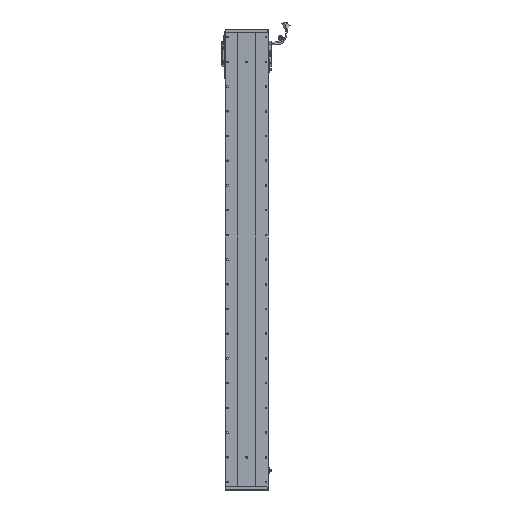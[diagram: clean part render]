
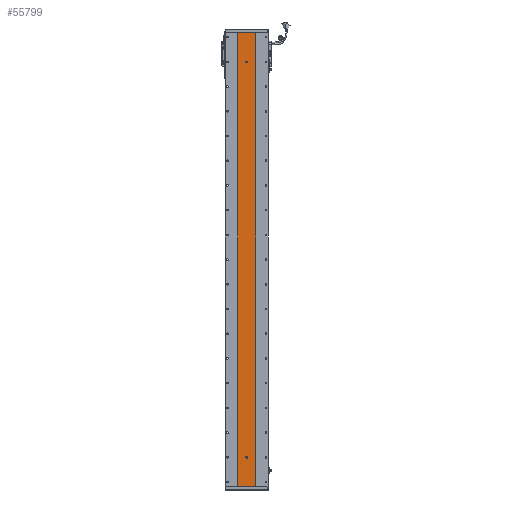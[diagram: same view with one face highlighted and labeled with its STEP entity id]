
A CAD part, front view. The second image highlights one B-rep face of the part: STEP entity #55799.
In plain terms, the highlighted planar face has unit normal (0, -1, 0).
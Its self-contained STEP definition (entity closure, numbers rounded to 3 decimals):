
#1467 = CARTESIAN_POINT ( 'NONE',  ( 3280.529, 1415.701, 1718.5 ) ) ;
#3166 = CARTESIAN_POINT ( 'NONE',  ( 3277.529, 1415.701, 120. ) ) ;
#4090 = ORIENTED_EDGE ( 'NONE', *, *, #13323, .F. ) ;
#5319 = VERTEX_POINT ( 'NONE', #61890 ) ;
#6401 = CARTESIAN_POINT ( 'NONE',  ( 3316.311, 1415.701, 0. ) ) ;
#7997 = CARTESIAN_POINT ( 'NONE',  ( 3244.748, 1415.701, 1837. ) ) ;
#10570 = CARTESIAN_POINT ( 'NONE',  ( 3316.311, 1415.701, 1837. ) ) ;
#11310 = AXIS2_PLACEMENT_3D ( 'NONE', #85369, #52323, #60654 ) ;
#12122 = CARTESIAN_POINT ( 'NONE',  ( 3316.311, 1415.701, 1837. ) ) ;
#12976 = CARTESIAN_POINT ( 'NONE',  ( 3277.529, 1415.701, 117. ) ) ;
#13323 = EDGE_CURVE ( 'NONE', #19041, #63475, #107345, .T. ) ;
#13455 = DIRECTION ( 'NONE',  ( 0., 0., -1. ) ) ;
#17750 = VECTOR ( 'NONE', #97489, 1000. ) ;
#18690 = DIRECTION ( 'NONE',  ( 1., 0., 0. ) ) ;
#19041 = VERTEX_POINT ( 'NONE', #48149 ) ;
#20443 = DIRECTION ( 'NONE',  ( 0., 0., -1. ) ) ;
#20746 = CIRCLE ( 'NONE', #25105, 3. ) ;
#22679 = EDGE_CURVE ( 'NONE', #61675, #5319, #80372, .T. ) ;
#25105 = AXIS2_PLACEMENT_3D ( 'NONE', #105142, #37486, #13455 ) ;
#27323 = ORIENTED_EDGE ( 'NONE', *, *, #22679, .F. ) ;
#28210 = DIRECTION ( 'NONE',  ( 0., 0., -1. ) ) ;
#28468 = CARTESIAN_POINT ( 'NONE',  ( 3244.748, 1415.701, 1837. ) ) ;
#29599 = CIRCLE ( 'NONE', #11310, 3. ) ;
#32098 = EDGE_CURVE ( 'NONE', #82553, #87913, #76451, .T. ) ;
#32808 = CARTESIAN_POINT ( 'NONE',  ( 3280.529, 1415.701, 1721.5 ) ) ;
#35981 = AXIS2_PLACEMENT_3D ( 'NONE', #106574, #65069, #73410 ) ;
#37486 = DIRECTION ( 'NONE',  ( 0., -1., 0. ) ) ;
#38251 = VECTOR ( 'NONE', #18690, 1000. ) ;
#38704 = VERTEX_POINT ( 'NONE', #6401 ) ;
#39897 = LINE ( 'NONE', #88732, #17750 ) ;
#40400 = VERTEX_POINT ( 'NONE', #52399 ) ;
#42054 = DIRECTION ( 'NONE',  ( 0., 0., -1. ) ) ;
#43097 = CARTESIAN_POINT ( 'NONE',  ( 3244.748, 1415.701, 0. ) ) ;
#43113 = DIRECTION ( 'NONE',  ( 0., -1., 0. ) ) ;
#44123 = ORIENTED_EDGE ( 'NONE', *, *, #103322, .F. ) ;
#46278 = EDGE_LOOP ( 'NONE', ( #74355, #70021, #88018, #48266 ) ) ;
#47242 = CARTESIAN_POINT ( 'NONE',  ( 3277.529, 1415.701, 120. ) ) ;
#48149 = CARTESIAN_POINT ( 'NONE',  ( 3280.529, 1415.701, 1715.5 ) ) ;
#48266 = ORIENTED_EDGE ( 'NONE', *, *, #76912, .T. ) ;
#51136 = CARTESIAN_POINT ( 'NONE',  ( 3280.529, 1415.701, 117. ) ) ;
#52323 = DIRECTION ( 'NONE',  ( 0., -1., 0. ) ) ;
#52399 = CARTESIAN_POINT ( 'NONE',  ( 3283.529, 1415.701, 117. ) ) ;
#53124 = CARTESIAN_POINT ( 'NONE',  ( 3283.529, 1415.701, 120. ) ) ;
#53218 = AXIS2_PLACEMENT_3D ( 'NONE', #7997, #65842, #58544 ) ;
#53279 = EDGE_CURVE ( 'NONE', #75551, #106473, #20746, .T. ) ;
#54438 = EDGE_CURVE ( 'NONE', #40400, #75551, #58253, .T. ) ;
#55799 = ADVANCED_FACE ( 'NONE', ( #68482, #80176, #58054 ), #90563, .F. ) ;
#58054 = FACE_OUTER_BOUND ( 'NONE', #46278, .T. ) ;
#58253 = LINE ( 'NONE', #53124, #90801 ) ;
#58544 = DIRECTION ( 'NONE',  ( 0., 0., 1. ) ) ;
#59176 = ORIENTED_EDGE ( 'NONE', *, *, #53279, .F. ) ;
#59690 = EDGE_CURVE ( 'NONE', #5319, #40400, #66096, .T. ) ;
#59851 = EDGE_CURVE ( 'NONE', #106473, #61675, #80410, .T. ) ;
#60654 = DIRECTION ( 'NONE',  ( 0., 0., -1. ) ) ;
#61071 = DIRECTION ( 'NONE',  ( 0., 0., 1. ) ) ;
#61675 = VERTEX_POINT ( 'NONE', #12976 ) ;
#61890 = CARTESIAN_POINT ( 'NONE',  ( 3280.529, 1415.701, 114. ) ) ;
#62893 = LINE ( 'NONE', #12122, #78547 ) ;
#63475 = VERTEX_POINT ( 'NONE', #32808 ) ;
#65069 = DIRECTION ( 'NONE',  ( 0., -1., 0. ) ) ;
#65842 = DIRECTION ( 'NONE',  ( 0., 1., 0. ) ) ;
#66096 = CIRCLE ( 'NONE', #35981, 3. ) ;
#67805 = EDGE_LOOP ( 'NONE', ( #4090, #44123 ) ) ;
#68267 = CARTESIAN_POINT ( 'NONE',  ( 3283.529, 1415.701, 120. ) ) ;
#68482 = FACE_BOUND ( 'NONE', #96468, .T. ) ;
#68715 = VECTOR ( 'NONE', #28210, 1000. ) ;
#70002 = VECTOR ( 'NONE', #101434, 1000. ) ;
#70021 = ORIENTED_EDGE ( 'NONE', *, *, #73705, .F. ) ;
#72235 = AXIS2_PLACEMENT_3D ( 'NONE', #51136, #43113, #42054 ) ;
#73410 = DIRECTION ( 'NONE',  ( 0., 0., -1. ) ) ;
#73705 = EDGE_CURVE ( 'NONE', #87913, #38704, #62893, .T. ) ;
#74355 = ORIENTED_EDGE ( 'NONE', *, *, #82476, .T. ) ;
#75551 = VERTEX_POINT ( 'NONE', #68267 ) ;
#75640 = DIRECTION ( 'NONE',  ( 0., 0., -1. ) ) ;
#76451 = LINE ( 'NONE', #82161, #70002 ) ;
#76912 = EDGE_CURVE ( 'NONE', #82553, #94664, #39897, .T. ) ;
#78547 = VECTOR ( 'NONE', #20443, 1000. ) ;
#80176 = FACE_BOUND ( 'NONE', #67805, .T. ) ;
#80372 = CIRCLE ( 'NONE', #72235, 3. ) ;
#80410 = LINE ( 'NONE', #3166, #68715 ) ;
#82161 = CARTESIAN_POINT ( 'NONE',  ( 3244.748, 1415.701, 1837. ) ) ;
#82476 = EDGE_CURVE ( 'NONE', #94664, #38704, #100670, .T. ) ;
#82553 = VERTEX_POINT ( 'NONE', #28468 ) ;
#85089 = DIRECTION ( 'NONE',  ( 0., -1., 0. ) ) ;
#85369 = CARTESIAN_POINT ( 'NONE',  ( 3280.529, 1415.701, 1718.5 ) ) ;
#87913 = VERTEX_POINT ( 'NONE', #10570 ) ;
#88018 = ORIENTED_EDGE ( 'NONE', *, *, #32098, .F. ) ;
#88324 = AXIS2_PLACEMENT_3D ( 'NONE', #1467, #85089, #75640 ) ;
#88732 = CARTESIAN_POINT ( 'NONE',  ( 3244.748, 1415.701, 1837. ) ) ;
#90563 = PLANE ( 'NONE',  #53218 ) ;
#90801 = VECTOR ( 'NONE', #61071, 1000. ) ;
#91257 = ORIENTED_EDGE ( 'NONE', *, *, #59690, .F. ) ;
#93404 = ORIENTED_EDGE ( 'NONE', *, *, #54438, .F. ) ;
#94664 = VERTEX_POINT ( 'NONE', #98166 ) ;
#96398 = ORIENTED_EDGE ( 'NONE', *, *, #59851, .F. ) ;
#96468 = EDGE_LOOP ( 'NONE', ( #27323, #96398, #59176, #93404, #91257 ) ) ;
#97489 = DIRECTION ( 'NONE',  ( 0., 0., -1. ) ) ;
#98166 = CARTESIAN_POINT ( 'NONE',  ( 3244.748, 1415.701, 0. ) ) ;
#100670 = LINE ( 'NONE', #43097, #38251 ) ;
#101434 = DIRECTION ( 'NONE',  ( 1., 0., 0. ) ) ;
#103322 = EDGE_CURVE ( 'NONE', #63475, #19041, #29599, .T. ) ;
#105142 = CARTESIAN_POINT ( 'NONE',  ( 3280.529, 1415.701, 120. ) ) ;
#106473 = VERTEX_POINT ( 'NONE', #47242 ) ;
#106574 = CARTESIAN_POINT ( 'NONE',  ( 3280.529, 1415.701, 117. ) ) ;
#107345 = CIRCLE ( 'NONE', #88324, 3. ) ;
